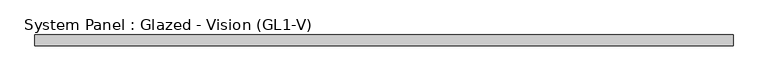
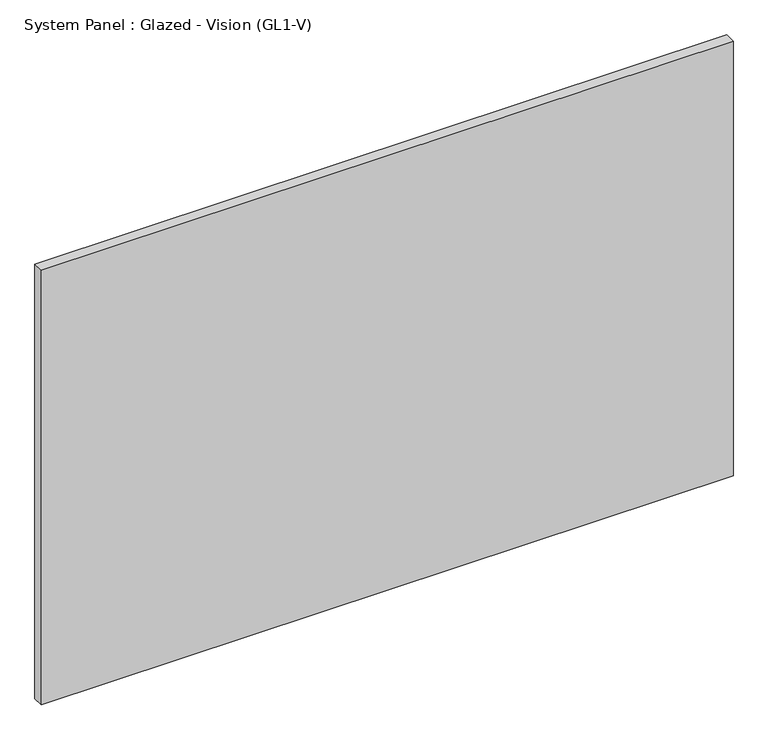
"""IFC4 building model written with IfcOpenShell, lengths in millimetres: plate geometry, System Panel : Glazed - Vision (GL1-V)."""

import ifcopenshell
import ifcopenshell.guid

model = None  # the IFC model being written
_history = None  # IfcOwnerHistory: only IFC2X3 demands one
_inside = {}  # id of a spatial element -> (the spatial element, [elements in it])
_under = {}  # id of a project, library or spatial element -> (it, [spatial elements below it])
_declared = {}  # id of a project -> (the project, [libraries it declares])
_typed = {}  # id of a type object -> (the type object, [elements of that type])
_made_of = {}  # id of a material, layer set ... -> (it, [elements and type objects made of it])


def new_model(schema):
    """Start an empty IFC model of exactly this schema.

    Asked for "IFC4X3", IfcOpenShell would pick the latest addendum, in which some entities
    have other attributes; the version numbers below select the first issue.
    IFC2X3 requires an IfcOwnerHistory on every rooted entity: one is made here for all.
    """
    global model, _history
    if schema == "IFC4X3":
        model = ifcopenshell.file(schema_version=(4, 3, 0, 0))
    else:
        model = ifcopenshell.file(schema=schema)
    _inside.clear()
    _under.clear()
    _declared.clear()
    _typed.clear()
    _made_of.clear()
    _history = None
    if model.schema == "IFC2X3":
        org = make("IfcOrganization", Name="unknown")
        user = make(
            "IfcPersonAndOrganization",
            ThePerson=make("IfcPerson", FamilyName="unknown"),
            TheOrganization=org,
        )
        app = make(
            "IfcApplication",
            ApplicationDeveloper=org,
            Version="unknown",
            ApplicationFullName="unknown",
            ApplicationIdentifier="unknown",
        )
        _history = make(
            "IfcOwnerHistory",
            OwningUser=user,
            OwningApplication=app,
            ChangeAction="ADDED",
            CreationDate=0,
        )
    return model


def make(cls, **values):
    """One entity of the class cls with the attributes given. An attribute that is None is left unset."""
    return model.create_entity(
        cls, **{name: value for name, value in values.items() if value is not None}
    )


def rooted(cls, **values):
    """An entity with a GlobalId (a new one), such as an element, a storey or a relation."""
    return make(cls, GlobalId=ifcopenshell.guid.new(), OwnerHistory=_history, **values)


def si_unit(unit_type, name, prefix=None):
    """IfcSIUnit, for example si_unit("LENGTHUNIT", "METRE", prefix="MILLI")."""
    return make("IfcSIUnit", UnitType=unit_type, Prefix=prefix, Name=name)


def assignment(units):
    """IfcUnitAssignment: the units of a project."""
    return None if units is None else make("IfcUnitAssignment", Units=units)


def point(xyz):
    """IfcCartesianPoint."""
    return None if xyz is None else make("IfcCartesianPoint", Coordinates=xyz)


def direction(xyz):
    """IfcDirection."""
    return None if xyz is None else make("IfcDirection", DirectionRatios=xyz)


def frame(location, z_axis=None, x_axis=None):
    """IfcAxis2Placement3D, a coordinate frame: its origin and axes. An axis left out is left unset."""
    return make(
        "IfcAxis2Placement3D",
        Location=point(location),
        Axis=direction(z_axis),
        RefDirection=direction(x_axis),
    )


def origin():
    """The frame at (0, 0, 0) with its axes left unset."""
    return frame((0.0, 0.0, 0.0))


def origin_with_axes():
    """The frame at (0, 0, 0) with the z axis (0, 0, 1) and the x axis (1, 0, 0) written out."""
    return frame((0.0, 0.0, 0.0), z_axis=(0.0, 0.0, 1.0), x_axis=(1.0, 0.0, 0.0))


def place(relative_to, where):
    """IfcLocalPlacement: puts the frame where relative to a parent placement (None: the world)."""
    return make(
        "IfcLocalPlacement", PlacementRelTo=relative_to, RelativePlacement=where
    )


def context(
    kind, dimensions, precision=None, world=None, true_north=None, identifier=None
):
    """IfcGeometricRepresentationContext, for example the 3D "Model" context."""
    return make(
        "IfcGeometricRepresentationContext",
        ContextIdentifier=identifier,
        ContextType=kind,
        CoordinateSpaceDimension=dimensions,
        Precision=precision,
        WorldCoordinateSystem=world,
        TrueNorth=true_north,
    )


def project(units=None, contexts=None):
    """IfcProject with its units and contexts."""
    return rooted(
        "IfcProject",
        Name="project",
        RepresentationContexts=contexts,
        UnitsInContext=assignment(units),
    )


def spatial(cls, under=None, at=None, **own):
    """A site, building, storey or space (cls), placed at a placement, below another one or the project."""
    s = rooted(cls, ObjectPlacement=at, **own)
    if under is not None:
        _under.setdefault(under.id(), (under, []))[1].append(s)
    return s


def polyline(points):
    """IfcPolyline through the points."""
    return make("IfcPolyline", Points=[point(p) for p in points])


def outline(outer, holes=None, kind="AREA"):
    """IfcArbitraryClosedProfileDef: a profile drawn as a closed curve; with holes, ...WithVoids."""
    if holes is None:
        return make("IfcArbitraryClosedProfileDef", ProfileType=kind, OuterCurve=outer)
    return make(
        "IfcArbitraryProfileDefWithVoids",
        ProfileType=kind,
        OuterCurve=outer,
        InnerCurves=holes,
    )


def extrude(swept, where, along, depth):
    """IfcExtrudedAreaSolid: the profile swept, set in the frame where, extruded along a direction by depth."""
    return make(
        "IfcExtrudedAreaSolid",
        SweptArea=swept,
        Position=where,
        ExtrudedDirection=direction(along),
        Depth=depth,
    )


def shape(context_of_items, identifier, shape_type, items):
    """IfcShapeRepresentation: the items that make up one representation, for example the "Body"."""
    return make(
        "IfcShapeRepresentation",
        ContextOfItems=context_of_items,
        RepresentationIdentifier=identifier,
        RepresentationType=shape_type,
        Items=items,
    )


def source(mapping_origin, context_of_items, identifier, shape_type, items):
    """IfcRepresentationMap: a shape defined once, which mapped items show again and again."""
    return make(
        "IfcRepresentationMap",
        MappingOrigin=mapping_origin,
        MappedRepresentation=shape(context_of_items, identifier, shape_type, items),
    )


def transform(
    local_origin,
    x_axis=None,
    y_axis=None,
    z_axis=None,
    scale=None,
    scale2=None,
    scale3=None,
    uniform=True,
):
    """IfcCartesianTransformationOperator3D, or its non-uniform kind. x_axis, y_axis, z_axis: its Axis1, 2, 3."""
    if uniform:
        return make(
            "IfcCartesianTransformationOperator3D",
            Axis1=direction(x_axis),
            Axis2=direction(y_axis),
            LocalOrigin=point(local_origin),
            Scale=scale,
            Axis3=direction(z_axis),
        )
    return make(
        "IfcCartesianTransformationOperator3DnonUniform",
        Axis1=direction(x_axis),
        Axis2=direction(y_axis),
        LocalOrigin=point(local_origin),
        Scale=scale,
        Axis3=direction(z_axis),
        Scale2=scale2,
        Scale3=scale3,
    )


def mapped(mapping_source, mapping_target):
    """IfcMappedItem: shows the shape of a source again, moved by a transform."""
    return make(
        "IfcMappedItem", MappingSource=mapping_source, MappingTarget=mapping_target
    )


def made_of(thing, what):
    """Note that an element or type object is made of a material, layer set ...; save() writes the relation."""
    if what is not None:
        _made_of.setdefault(what.id(), (what, []))[1].append(thing)
    return thing


def element(
    cls,
    number,
    at=None,
    inside=None,
    cuts=None,
    type_object=None,
    material=None,
    context=None,
    identifier="Body",
    shape_type=None,
    held_by="IfcProductDefinitionShape",
    body=None,
    shapes=None,
    **own,
):
    """One element of the class cls, such as IfcWall. Its Tag is "e" and its number.

    at: its placement. inside: the storey or other place that contains it. cuts: it is an
    opening in that element (IfcRelVoidsElement). A single representation is given by context,
    identifier, shape_type and body (its items); several are given by shapes. held_by: the class
    of the entity that holds the representations. save() writes the other relations.
    """
    e = rooted(cls, Tag="e%d" % number, ObjectPlacement=at, **own)
    if body is not None:
        shapes = [shape(context, identifier, shape_type, body)]
    if shapes is not None:
        e.Representation = make(held_by, Representations=shapes)
    if inside is not None:
        _inside.setdefault(inside.id(), (inside, []))[1].append(e)
    if cuts is not None:
        rooted(
            "IfcRelVoidsElement", RelatingBuildingElement=cuts, RelatedOpeningElement=e
        )
    if type_object is not None:
        _typed.setdefault(type_object.id(), (type_object, []))[1].append(e)
    return made_of(e, material)


def aggregate(whole, parts):
    """IfcRelAggregates: a whole, such as a stair, and the parts it consists of."""
    return rooted("IfcRelAggregates", RelatingObject=whole, RelatedObjects=parts)


def save(model, path):
    """Write the relations noted so far, then the file.

    IfcRelAggregates (storeys below a building ...), IfcRelContainedInSpatialStructure (elements
    in a storey), IfcRelDefinesByType, IfcRelAssociatesMaterial and IfcRelDeclares: one each for
    every whole, place, type object, material and project.
    """
    for whole, parts in _under.values():
        aggregate(whole, parts)
    for where, things in _inside.values():
        rooted(
            "IfcRelContainedInSpatialStructure",
            RelatedElements=things,
            RelatingStructure=where,
        )
    for kind, things in _typed.values():
        rooted("IfcRelDefinesByType", RelatedObjects=things, RelatingType=kind)
    for what, things in _made_of.values():
        rooted("IfcRelAssociatesMaterial", RelatedObjects=things, RelatingMaterial=what)
    for by, libraries in _declared.values():
        rooted("IfcRelDeclares", RelatingContext=by, RelatedDefinitions=libraries)
    model.write(path)


def system_panel_glazed_vision_gl1_v_d7bb4986(model_context):
    return source(origin(), model_context, "Body", "SweptSolid", [
        extrude(outline(polyline([(803.275003, 0.0), (-803.275003, 0.0), (-803.275003, 25.4), (803.275003, 25.4), (803.275003, 0.0)])), origin_with_axes(), (0.0, 0.0, 1.0), 1066.8000012),
    ])


if __name__ == "__main__":
    model = new_model("IFC4")
    model_context = context("Model", 3, world=origin())
    ifc_project = project(units=[si_unit("LENGTHUNIT", "METRE", prefix="MILLI")], contexts=[model_context])
    site = spatial("IfcSite", under=ifc_project)
    building = spatial("IfcBuilding", under=site)
    placement = place(None, origin())
    system_panel_glazed_vision_gl1_v_shape = system_panel_glazed_vision_gl1_v_d7bb4986(model_context)
    element("IfcPlate", 1, ObjectType="System Panel : Glazed - Vision (GL1-V)", at=placement, inside=building, context=model_context, shape_type="MappedRepresentation", body=[
        mapped(system_panel_glazed_vision_gl1_v_shape, transform((0.0, 0.0, 0.0), x_axis=(1.0, 0.0, 0.0), y_axis=(0.0, 1.0, 0.0), z_axis=(0.0, 0.0, 1.0))),
    ])
    save(model, "model.ifc")
